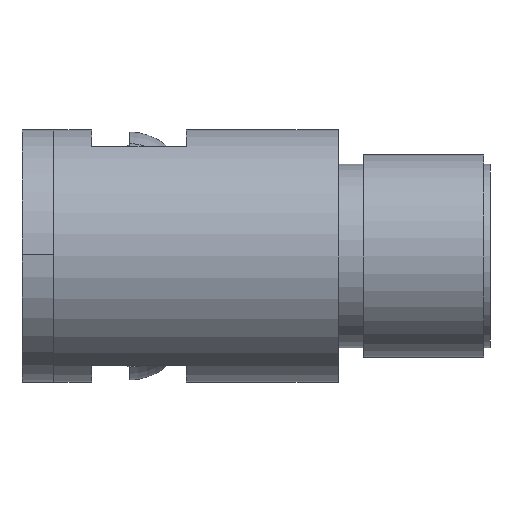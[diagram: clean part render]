
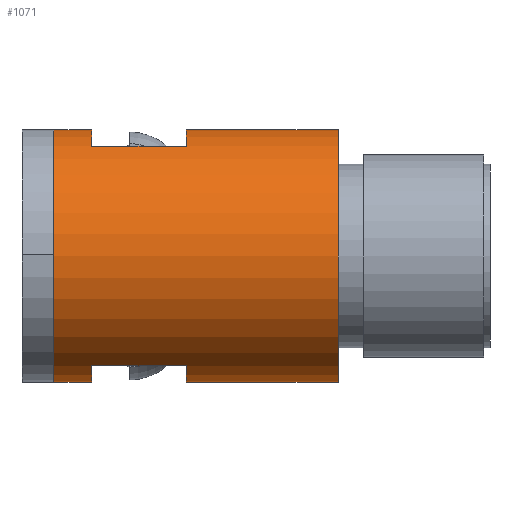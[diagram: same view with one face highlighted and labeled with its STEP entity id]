
A CAD part, left-side view. The second image highlights one B-rep face of the part: STEP entity #1071.
In plain terms, the highlighted cylindrical face has radius 10 mm (diameter 20 mm), a partial arc.
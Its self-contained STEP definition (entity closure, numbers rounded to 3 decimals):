
#451 = VERTEX_POINT ( 'NONE', #1450 ) ;
#460 = EDGE_CURVE ( 'NONE', #480, #467, #1451, .T. ) ;
#461 = EDGE_CURVE ( 'NONE', #451, #562, #1475, .T. ) ;
#464 = VERTEX_POINT ( 'NONE', #1395 ) ;
#467 = VERTEX_POINT ( 'NONE', #1554 ) ;
#480 = VERTEX_POINT ( 'NONE', #1537 ) ;
#562 = VERTEX_POINT ( 'NONE', #1484 ) ;
#1006 = EDGE_CURVE ( 'NONE', #451, #1036, #2345, .T. ) ;
#1034 = ORIENTED_EDGE ( 'NONE', *, *, #1046, .T. ) ;
#1035 = EDGE_CURVE ( 'NONE', #480, #464, #2294, .T. ) ;
#1036 = VERTEX_POINT ( 'NONE', #2378 ) ;
#1037 = ORIENTED_EDGE ( 'NONE', *, *, #1106, .T. ) ;
#1046 = EDGE_CURVE ( 'NONE', #1036, #1056, #2372, .T. ) ;
#1048 = ORIENTED_EDGE ( 'NONE', *, *, #1006, .T. ) ;
#1049 = ORIENTED_EDGE ( 'NONE', *, *, #461, .F. ) ;
#1052 = EDGE_CURVE ( 'NONE', #562, #1128, #2065, .T. ) ;
#1056 = VERTEX_POINT ( 'NONE', #2300 ) ;
#1058 = EDGE_CURVE ( 'NONE', #1066, #1165, #2415, .T. ) ;
#1060 = ORIENTED_EDGE ( 'NONE', *, *, #1078, .T. ) ;
#1061 = EDGE_CURVE ( 'NONE', #1140, #1077, #2414, .T. ) ;
#1066 = VERTEX_POINT ( 'NONE', #2461 ) ;
#1071 = ADVANCED_FACE ( 'NONE', ( #2518 ), #2520, .T. ) ;
#1077 = VERTEX_POINT ( 'NONE', #2511 ) ;
#1078 = EDGE_CURVE ( 'NONE', #1077, #1066, #2512, .T. ) ;
#1081 = ORIENTED_EDGE ( 'NONE', *, *, #1131, .T. ) ;
#1082 = ORIENTED_EDGE ( 'NONE', *, *, #1052, .F. ) ;
#1090 = ORIENTED_EDGE ( 'NONE', *, *, #1035, .T. ) ;
#1091 = ORIENTED_EDGE ( 'NONE', *, *, #1058, .T. ) ;
#1092 = ORIENTED_EDGE ( 'NONE', *, *, #1061, .T. ) ;
#1093 = ORIENTED_EDGE ( 'NONE', *, *, #1127, .T. ) ;
#1094 = ORIENTED_EDGE ( 'NONE', *, *, #460, .F. ) ;
#1097 = EDGE_LOOP ( 'NONE', ( #1094, #1090, #1081, #1092, #1060, #1091, #1093, #1082, #1049, #1048, #1034, #1037 ) ) ;
#1106 = EDGE_CURVE ( 'NONE', #1056, #467, #2527, .T. ) ;
#1127 = EDGE_CURVE ( 'NONE', #1165, #1128, #2579, .T. ) ;
#1128 = VERTEX_POINT ( 'NONE', #2553 ) ;
#1131 = EDGE_CURVE ( 'NONE', #464, #1140, #2575, .T. ) ;
#1140 = VERTEX_POINT ( 'NONE', #2618 ) ;
#1165 = VERTEX_POINT ( 'NONE', #2564 ) ;
#1381 = DIRECTION ( 'NONE',  ( 0., -1., 0. ) ) ;
#1395 = CARTESIAN_POINT ( 'NONE',  ( 6621.212, 2718.181, -10. ) ) ;
#1429 = DIRECTION ( 'NONE',  ( 0., -1., 0. ) ) ;
#1430 = VECTOR ( 'NONE', #1429, 1000. ) ;
#1431 = CARTESIAN_POINT ( 'NONE',  ( 6621.212, 2682.014, 10. ) ) ;
#1450 = CARTESIAN_POINT ( 'NONE',  ( 6621.212, 2707.681, 10. ) ) ;
#1451 = LINE ( 'NONE', #1431, #1430 ) ;
#1473 = VECTOR ( 'NONE', #1381, 1000. ) ;
#1474 = CARTESIAN_POINT ( 'NONE',  ( 6621.212, 2682.014, 10. ) ) ;
#1475 = LINE ( 'NONE', #1474, #1473 ) ;
#1484 = CARTESIAN_POINT ( 'NONE',  ( 6621.212, 2695.681, 10. ) ) ;
#1537 = CARTESIAN_POINT ( 'NONE',  ( 6621.212, 2718.181, 10. ) ) ;
#1554 = CARTESIAN_POINT ( 'NONE',  ( 6621.212, 2715.181, 10. ) ) ;
#2065 = CIRCLE ( 'NONE', #2167, 10. ) ;
#2121 = DIRECTION ( 'NONE',  ( 0., -1., 0. ) ) ;
#2134 = CARTESIAN_POINT ( 'NONE',  ( 6621.212, 2695.681, 0. ) ) ;
#2136 = DIRECTION ( 'NONE',  ( 0., 0., -1. ) ) ;
#2167 = AXIS2_PLACEMENT_3D ( 'NONE', #2134, #2121, #2136 ) ;
#2291 = DIRECTION ( 'NONE',  ( 0., 0., -1. ) ) ;
#2292 = DIRECTION ( 'NONE',  ( 0., -1., 0. ) ) ;
#2293 = AXIS2_PLACEMENT_3D ( 'NONE', #2309, #2292, #2291 ) ;
#2294 = CIRCLE ( 'NONE', #2293, 10. ) ;
#2300 = CARTESIAN_POINT ( 'NONE',  ( 6616.212, 2715.181, 8.66 ) ) ;
#2305 = DIRECTION ( 'NONE',  ( 0., 1., 0. ) ) ;
#2309 = CARTESIAN_POINT ( 'NONE',  ( 6621.212, 2718.181, 0. ) ) ;
#2345 = CIRCLE ( 'NONE', #2365, 10. ) ;
#2357 = DIRECTION ( 'NONE',  ( 0., 0., -1. ) ) ;
#2358 = DIRECTION ( 'NONE',  ( 0., -1., 0. ) ) ;
#2359 = CARTESIAN_POINT ( 'NONE',  ( 6621.212, 2707.681, 0. ) ) ;
#2365 = AXIS2_PLACEMENT_3D ( 'NONE', #2359, #2358, #2357 ) ;
#2371 = CARTESIAN_POINT ( 'NONE',  ( 6616.212, 2682.014, 8.66 ) ) ;
#2372 = LINE ( 'NONE', #2371, #2379 ) ;
#2378 = CARTESIAN_POINT ( 'NONE',  ( 6616.212, 2707.681, 8.66 ) ) ;
#2379 = VECTOR ( 'NONE', #2305, 1000. ) ;
#2395 = DIRECTION ( 'NONE',  ( 0., 0., 1. ) ) ;
#2398 = DIRECTION ( 'NONE',  ( 0., 1., 0. ) ) ;
#2399 = CARTESIAN_POINT ( 'NONE',  ( 6621.212, 2715.181, 0. ) ) ;
#2400 = AXIS2_PLACEMENT_3D ( 'NONE', #2399, #2398, #2395 ) ;
#2401 = DIRECTION ( 'NONE',  ( 0., 0., -1. ) ) ;
#2402 = DIRECTION ( 'NONE',  ( 0., -1., 0. ) ) ;
#2403 = CARTESIAN_POINT ( 'NONE',  ( 6621.212, 2707.681, 0. ) ) ;
#2406 = AXIS2_PLACEMENT_3D ( 'NONE', #2403, #2402, #2401 ) ;
#2414 = CIRCLE ( 'NONE', #2400, 10. ) ;
#2415 = CIRCLE ( 'NONE', #2406, 10. ) ;
#2461 = CARTESIAN_POINT ( 'NONE',  ( 6616.212, 2707.681, -8.66 ) ) ;
#2505 = DIRECTION ( 'NONE',  ( 0., -1., 0. ) ) ;
#2506 = AXIS2_PLACEMENT_3D ( 'NONE', #2514, #2529, #2510 ) ;
#2510 = DIRECTION ( 'NONE',  ( 0., 0., 1. ) ) ;
#2511 = CARTESIAN_POINT ( 'NONE',  ( 6616.212, 2715.181, -8.66 ) ) ;
#2512 = LINE ( 'NONE', #2531, #2530 ) ;
#2514 = CARTESIAN_POINT ( 'NONE',  ( 6621.212, 2715.181, 0. ) ) ;
#2516 = CARTESIAN_POINT ( 'NONE',  ( 6621.212, 2682.014, 0. ) ) ;
#2517 = DIRECTION ( 'NONE',  ( 0., 0., -1. ) ) ;
#2518 = FACE_OUTER_BOUND ( 'NONE', #1097, .T. ) ;
#2520 = CYLINDRICAL_SURFACE ( 'NONE', #2525, 10. ) ;
#2525 = AXIS2_PLACEMENT_3D ( 'NONE', #2516, #2526, #2517 ) ;
#2526 = DIRECTION ( 'NONE',  ( 0., -1., 0. ) ) ;
#2527 = CIRCLE ( 'NONE', #2506, 10. ) ;
#2529 = DIRECTION ( 'NONE',  ( 0., 1., 0. ) ) ;
#2530 = VECTOR ( 'NONE', #2505, 1000. ) ;
#2531 = CARTESIAN_POINT ( 'NONE',  ( 6616.212, 2682.014, -8.66 ) ) ;
#2553 = CARTESIAN_POINT ( 'NONE',  ( 6621.212, 2695.681, -10. ) ) ;
#2564 = CARTESIAN_POINT ( 'NONE',  ( 6621.212, 2707.681, -10. ) ) ;
#2570 = DIRECTION ( 'NONE',  ( 0., -1., 0. ) ) ;
#2571 = VECTOR ( 'NONE', #2570, 1000. ) ;
#2574 = CARTESIAN_POINT ( 'NONE',  ( 6621.212, 2682.014, -10. ) ) ;
#2575 = LINE ( 'NONE', #2574, #2571 ) ;
#2579 = LINE ( 'NONE', #2603, #2586 ) ;
#2586 = VECTOR ( 'NONE', #2602, 1000. ) ;
#2602 = DIRECTION ( 'NONE',  ( 0., -1., 0. ) ) ;
#2603 = CARTESIAN_POINT ( 'NONE',  ( 6621.212, 2682.014, -10. ) ) ;
#2618 = CARTESIAN_POINT ( 'NONE',  ( 6621.212, 2715.181, -10. ) ) ;
